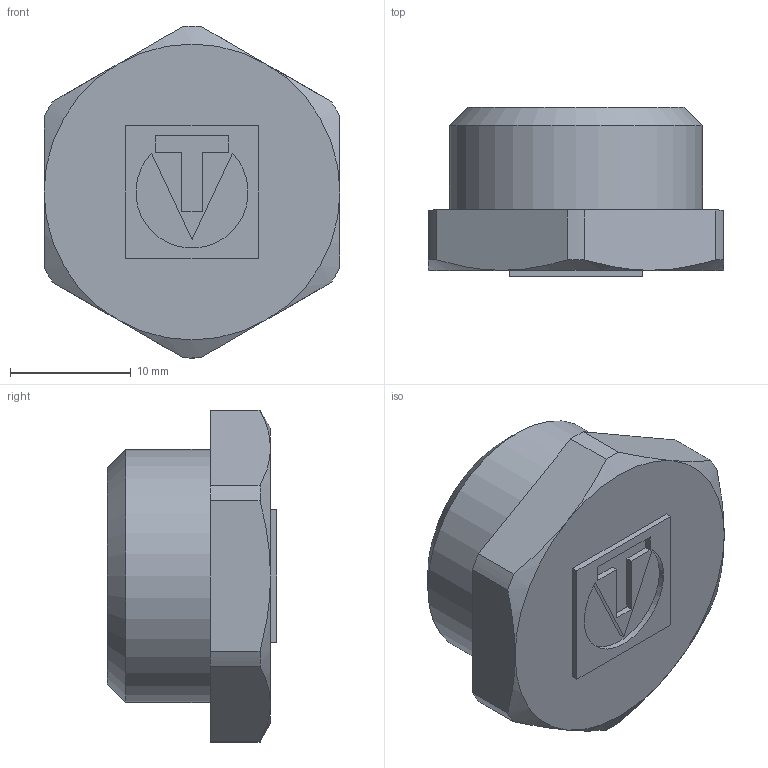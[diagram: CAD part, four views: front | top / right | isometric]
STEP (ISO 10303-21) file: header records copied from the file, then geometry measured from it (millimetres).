
FILE_DESCRIPTION(('STEP AP203'), '1');
FILE_NAME('ÂÐ.753125.003 - VTr.583.N.0004 Ïðîá. ðåçüá', '2024-07-05T13:22:52', ('Boss'), (''), 'C3D Converter', 'C3D Toolkit', '');
FILE_SCHEMA(('CONFIG_CONTROL_DESIGN'));
Length unit declared in the file: millimetre
Products named in the file (1): ВР.753125.003
Bounding box: 24.5 x 14 x 27.5 mm (x, y, z)
Volume: 3521.1 mm3; surface area: 2488.5 mm2
Topology: 1 solids, 1 shells, 44 faces, 103 edges, 66 vertices
Faces by surface type: plane 27, cylinder 9, cone 8
Full cylindrical faces by diameter (mm): 15 x1, 20.955 x1
Entity records: 1614 total; most frequent: CARTESIAN_POINT 588, DIRECTION 203, ORIENTED_EDGE 198, EDGE_CURVE 99, AXIS2_PLACEMENT_3D 71, VERTEX_POINT 66, LINE 61, VECTOR 61
